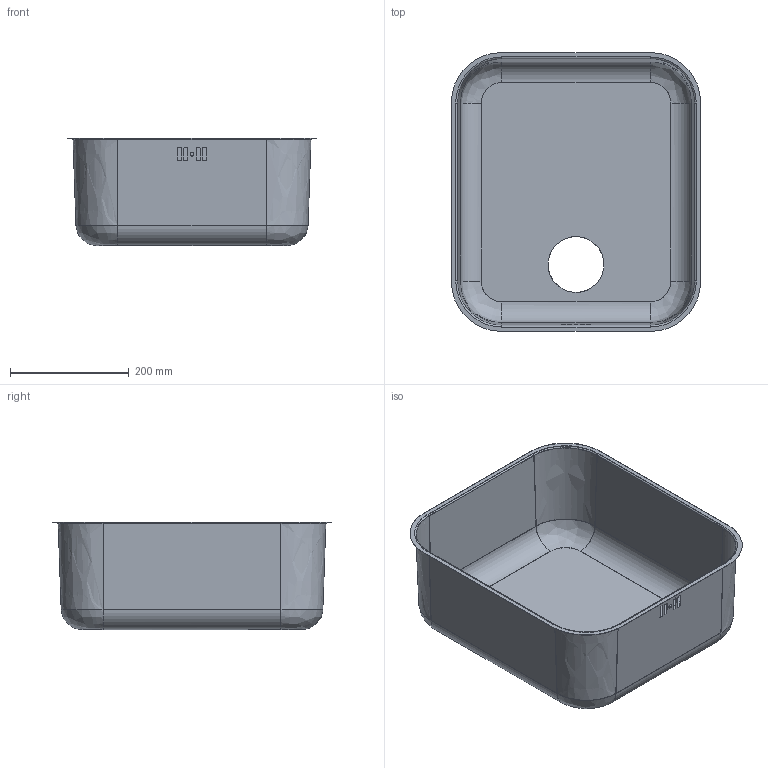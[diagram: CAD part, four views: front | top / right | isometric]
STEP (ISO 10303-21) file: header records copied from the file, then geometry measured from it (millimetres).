
FILE_DESCRIPTION((''),'1');
FILE_NAME('C:/Users/linop/Desktop/UM45.stp','2018-02-26T13:52:52',(''),(''),'Spatial Interop R20 SP1','Kubotek KeyCreator V9.0.3 (16864)',' ');
FILE_SCHEMA(('CONFIG_CONTROL_DESIGN'));
Length unit declared in the file: millimetre
Products named in the file (1): 1
Bounding box: 420 x 470 x 180.7 mm (x, y, z)
Volume: 301505.9 mm3; surface area: 862962 mm2
Topology: 1 solids, 1 shells, 97 faces, 250 edges, 157 vertices
Faces by surface type: bspline 44, plane 32, cylinder 21
Full cylindrical faces by diameter (mm): 94 x1
Entity records: 7400 total; most frequent: CARTESIAN_POINT 5289, ORIENTED_EDGE 498, DIRECTION 287, EDGE_CURVE 249, VERTEX_POINT 157, LINE 123, VECTOR 123, EDGE_LOOP 112
